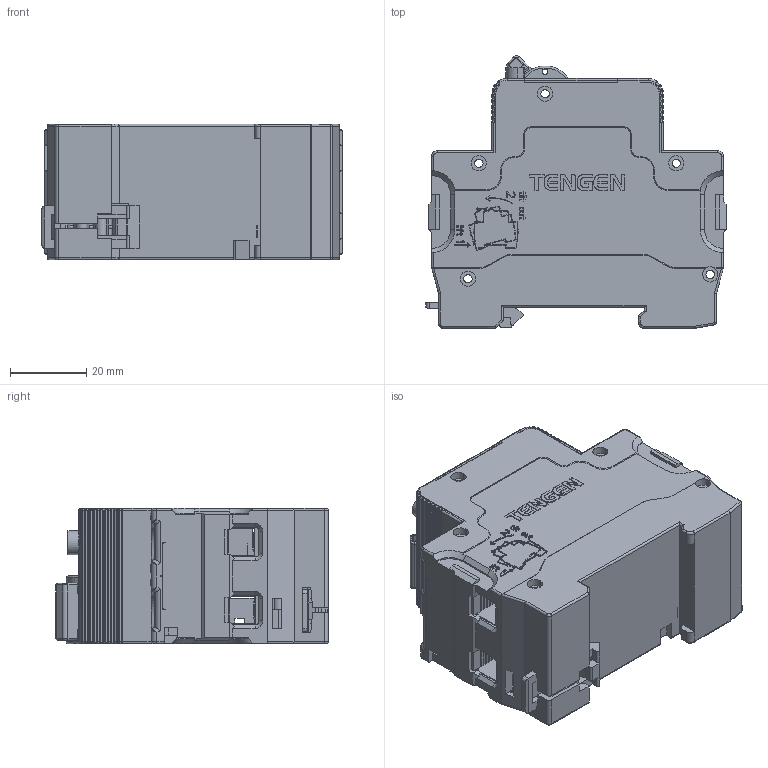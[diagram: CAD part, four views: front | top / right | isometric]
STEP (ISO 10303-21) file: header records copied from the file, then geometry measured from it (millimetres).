
FILE_DESCRIPTION((''),'2;1');
FILE_NAME('2TZD_253_6045_SW0002','2022-07-14T',('yangxiaoteng'),(''),'PRO/ENGINEER BY PARAMETRIC TECHNOLOGY CORPORATION, 2017170','PRO/ENGINEER BY PARAMETRIC TECHNOLOGY CORPORATION, 2017170','');
FILE_SCHEMA(('CONFIG_CONTROL_DESIGN'));
Products named in the file (1): 2TZD_253_6045_SW0002
Bounding box: 78.8 x 71.52 x 35.6 mm (x, y, z)
Volume: 38924.1 mm3; surface area: 58006.3 mm2
Topology: 3 solids, 3 shells, 5552 faces, 15139 edges, 9635 vertices
Faces by surface type: plane 3605, cylinder 1259, torus 250, bspline 164, cone 148, extrusion 76, sphere 50
Entity records: 188675 total; most frequent: CARTESIAN_POINT 49270, ORIENTED_EDGE 30278, DIRECTION 27250, EDGE_CURVE 15139, VECTOR 11362, LINE 11286, VERTEX_POINT 9635, AXIS2_PLACEMENT_3D 7944
